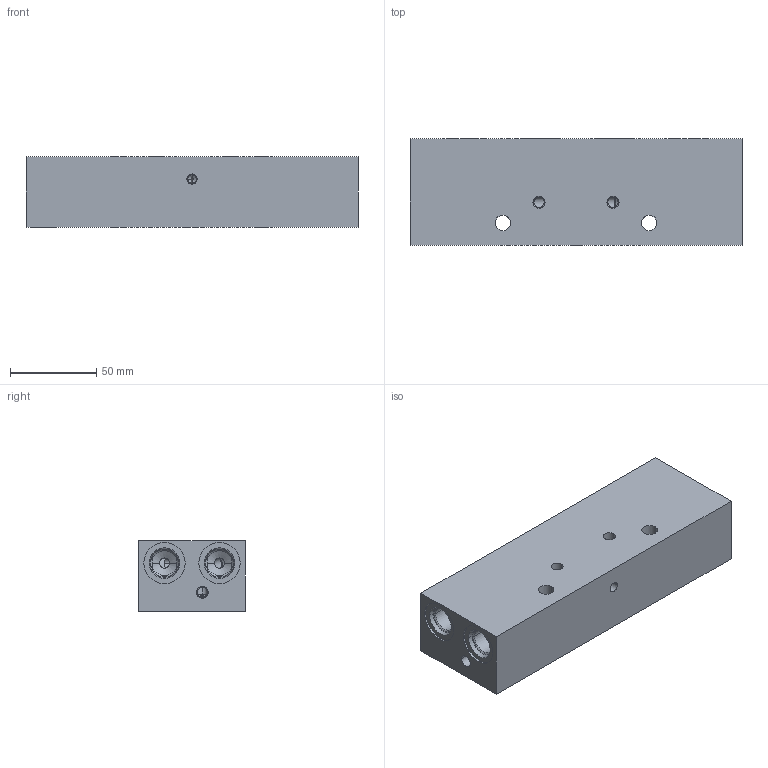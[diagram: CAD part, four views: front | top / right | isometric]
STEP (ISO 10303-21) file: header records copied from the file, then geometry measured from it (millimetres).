
FILE_DESCRIPTION((''),'2;1');
FILE_NAME('1000151233','2025-10-23T09:11:50',('PoolNonAdmin17564599'),(''),'CREO PARAMETRIC BY PTC INC, 2025183','CREO PARAMETRIC BY PTC INC, 2025183','');
FILE_SCHEMA(('AUTOMOTIVE_DESIGN { 1 0 10303 214 1 1 1 1 }'));
Products named in the file (1): 1000151233
Bounding box: 193 x 62 x 41 mm (x, y, z)
Volume: 431956.8 mm3; surface area: 68134.2 mm2
Topology: 1 solids, 11 shells, 240 faces, 707 edges, 493 vertices
Faces by surface type: cylinder 124, cone 90, plane 26
Entity records: 147635 total; most frequent: CARTESIAN_POINT 107962, POLYLINE 27811, DIRECTION 1602, ORIENTED_EDGE 1120, PRESENTATION_STYLE_ASSIGNMENT 924, CURVE_STYLE 864, STYLED_ITEM 770, AXIS2_PLACEMENT_3D 624
